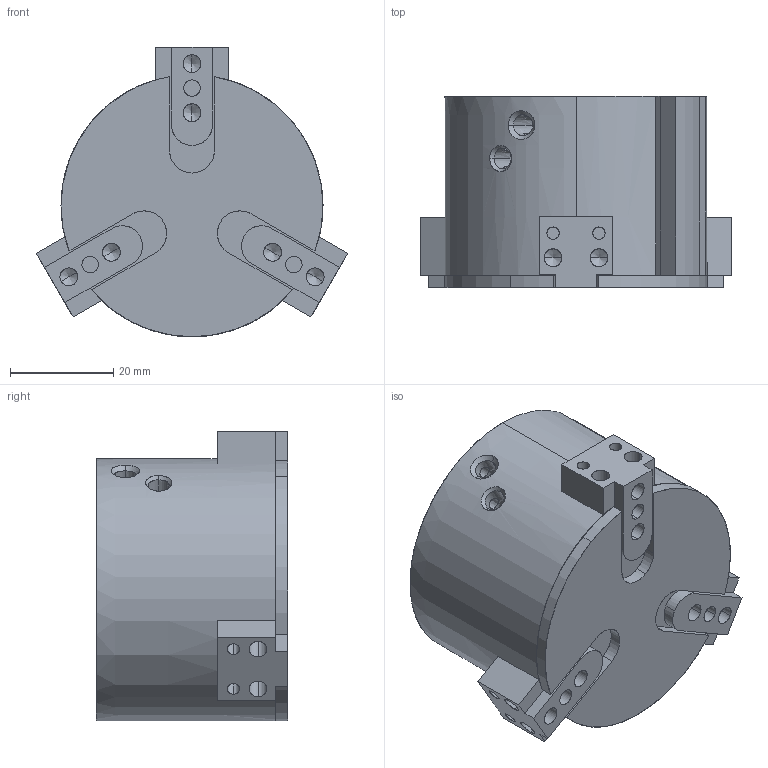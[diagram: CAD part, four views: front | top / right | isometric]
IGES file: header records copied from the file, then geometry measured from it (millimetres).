
Start section: SolidWorks IGES file using analytic representation for surfaces
Global section: file name: C:\Users\jmkuhnes\Pictures\My Transfers\AGP-23\AGP-23 OPEN in IN.IGS; native system: SolidWorks 2013; preprocessor: SolidWorks 2013; author: jmkuhnes; date: 141105.080027; units: inch
Bounding box: 60.34 x 37.03 x 56.13 mm (x, y, z)
Surface area: 23521.4 mm2 (no closed solid volume)
Topology: 0 solids, 0 shells, 204 faces, 2939 edges, 2905 vertices
Faces by surface type: revolution 122, bspline 82
